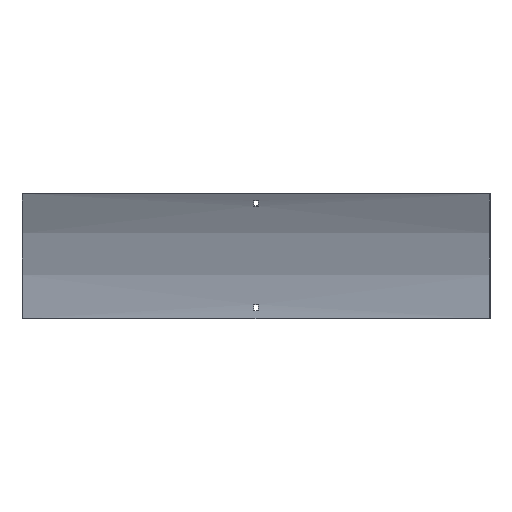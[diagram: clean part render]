
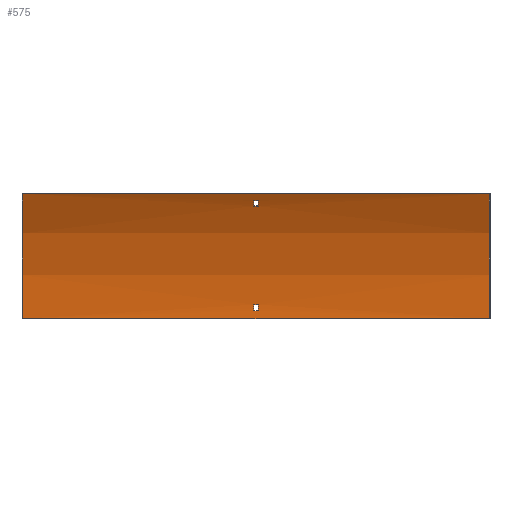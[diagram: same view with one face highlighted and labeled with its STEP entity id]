
A CAD part, front view. The second image highlights one B-rep face of the part: STEP entity #575.
In plain terms, the highlighted cylindrical face has radius 375 mm (diameter 750 mm), a partial arc.
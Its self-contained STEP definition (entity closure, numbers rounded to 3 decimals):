
#3 = CARTESIAN_POINT ( 'NONE',  ( 350., -51.74, 187.5 ) ) ;
#8 = DIRECTION ( 'NONE',  ( -1., 0., 0. ) ) ;
#13 = LINE ( 'NONE', #181, #226 ) ;
#18 = DIRECTION ( 'NONE',  ( -1., 0., 0. ) ) ;
#26 = ORIENTED_EDGE ( 'NONE', *, *, #449, .T. ) ;
#30 = AXIS2_PLACEMENT_3D ( 'NONE', #370, #436, #198 ) ;
#31 = CIRCLE ( 'NONE', #379, 375. ) ;
#35 = ORIENTED_EDGE ( 'NONE', *, *, #467, .T. ) ;
#37 = ORIENTED_EDGE ( 'NONE', *, *, #94, .F. ) ;
#42 = DIRECTION ( 'NONE',  ( -1., 0., 0. ) ) ;
#59 = EDGE_CURVE ( 'NONE', #239, #454, #132, .T. ) ;
#63 = VECTOR ( 'NONE', #478, 1000. ) ;
#78 = LINE ( 'NONE', #455, #471 ) ;
#79 = EDGE_CURVE ( 'NONE', #269, #177, #469, .T. ) ;
#81 = CARTESIAN_POINT ( 'NONE',  ( 3.25, -1.692, 12. ) ) ;
#94 = EDGE_CURVE ( 'NONE', #230, #545, #13, .T. ) ;
#98 = DIRECTION ( 'NONE',  ( -1., 0., 0. ) ) ;
#99 = AXIS2_PLACEMENT_3D ( 'NONE', #569, #402, #543 ) ;
#105 = LINE ( 'NONE', #289, #63 ) ;
#112 = ORIENTED_EDGE ( 'NONE', *, *, #507, .F. ) ;
#125 = AXIS2_PLACEMENT_3D ( 'NONE', #398, #222, #498 ) ;
#132 = CIRCLE ( 'NONE', #30, 375. ) ;
#133 = CIRCLE ( 'NONE', #451, 375. ) ;
#142 = CARTESIAN_POINT ( 'NONE',  ( 3.25, -376.5, 0. ) ) ;
#147 = VECTOR ( 'NONE', #42, 1000. ) ;
#159 = ORIENTED_EDGE ( 'NONE', *, *, #339, .T. ) ;
#166 = VERTEX_POINT ( 'NONE', #219 ) ;
#173 = AXIS2_PLACEMENT_3D ( 'NONE', #282, #573, #582 ) ;
#177 = VERTEX_POINT ( 'NONE', #263 ) ;
#179 = CARTESIAN_POINT ( 'NONE',  ( -350., -1.5, 0. ) ) ;
#181 = CARTESIAN_POINT ( 'NONE',  ( 350., -1.5, 0. ) ) ;
#182 = CARTESIAN_POINT ( 'NONE',  ( 3.25, -41.75, 169.019 ) ) ;
#187 = EDGE_CURVE ( 'NONE', #230, #584, #501, .T. ) ;
#198 = DIRECTION ( 'NONE',  ( 0., 0., -1. ) ) ;
#205 = EDGE_LOOP ( 'NONE', ( #35, #295, #26, #159 ) ) ;
#209 = CARTESIAN_POINT ( 'NONE',  ( -3.25, -1.692, 12. ) ) ;
#210 = VERTEX_POINT ( 'NONE', #209 ) ;
#216 = DIRECTION ( 'NONE',  ( 0., 0., -1. ) ) ;
#218 = ORIENTED_EDGE ( 'NONE', *, *, #538, .F. ) ;
#219 = CARTESIAN_POINT ( 'NONE',  ( 3.25, -45.907, 177.012 ) ) ;
#222 = DIRECTION ( 'NONE',  ( 1., 0., 0. ) ) ;
#226 = VECTOR ( 'NONE', #8, 1000. ) ;
#227 = DIRECTION ( 'NONE',  ( 1., 0., 0. ) ) ;
#230 = VERTEX_POINT ( 'NONE', #551 ) ;
#239 = VERTEX_POINT ( 'NONE', #306 ) ;
#244 = CARTESIAN_POINT ( 'NONE',  ( -350., -51.74, 187.5 ) ) ;
#263 = CARTESIAN_POINT ( 'NONE',  ( -3.25, -2.088, 21. ) ) ;
#269 = VERTEX_POINT ( 'NONE', #364 ) ;
#279 = DIRECTION ( 'NONE',  ( -1., 0., 0. ) ) ;
#282 = CARTESIAN_POINT ( 'NONE',  ( 350., -376.5, 0. ) ) ;
#286 = FACE_BOUND ( 'NONE', #437, .T. ) ;
#287 = DIRECTION ( 'NONE',  ( 0., 0., 1. ) ) ;
#288 = CARTESIAN_POINT ( 'NONE',  ( 351.5, -376.5, 0. ) ) ;
#289 = CARTESIAN_POINT ( 'NONE',  ( 351.5, -45.907, 177.012 ) ) ;
#295 = ORIENTED_EDGE ( 'NONE', *, *, #59, .T. ) ;
#300 = VECTOR ( 'NONE', #18, 1000. ) ;
#306 = CARTESIAN_POINT ( 'NONE',  ( -3.25, -41.75, 169.019 ) ) ;
#330 = CARTESIAN_POINT ( 'NONE',  ( 351.5, -2.088, 21. ) ) ;
#331 = FACE_OUTER_BOUND ( 'NONE', #605, .T. ) ;
#335 = LINE ( 'NONE', #435, #300 ) ;
#339 = EDGE_CURVE ( 'NONE', #166, #588, #133, .T. ) ;
#352 = CIRCLE ( 'NONE', #125, 375. ) ;
#353 = ORIENTED_EDGE ( 'NONE', *, *, #187, .T. ) ;
#364 = CARTESIAN_POINT ( 'NONE',  ( 3.25, -2.088, 21. ) ) ;
#370 = CARTESIAN_POINT ( 'NONE',  ( -3.25, -376.5, 0. ) ) ;
#379 = AXIS2_PLACEMENT_3D ( 'NONE', #460, #412, #216 ) ;
#381 = DIRECTION ( 'NONE',  ( -1., 0., 0. ) ) ;
#398 = CARTESIAN_POINT ( 'NONE',  ( 3.25, -376.5, 0. ) ) ;
#402 = DIRECTION ( 'NONE',  ( -1., 0., 0. ) ) ;
#412 = DIRECTION ( 'NONE',  ( 1., 0., 0. ) ) ;
#415 = CYLINDRICAL_SURFACE ( 'NONE', #503, 375. ) ;
#419 = CARTESIAN_POINT ( 'NONE',  ( 350., -51.74, 187.5 ) ) ;
#435 = CARTESIAN_POINT ( 'NONE',  ( 351.5, -41.75, 169.019 ) ) ;
#436 = DIRECTION ( 'NONE',  ( 1., 0., 0. ) ) ;
#437 = EDGE_LOOP ( 'NONE', ( #572, #530, #539, #112 ) ) ;
#448 = ORIENTED_EDGE ( 'NONE', *, *, #576, .T. ) ;
#449 = EDGE_CURVE ( 'NONE', #454, #166, #105, .T. ) ;
#451 = AXIS2_PLACEMENT_3D ( 'NONE', #142, #98, #287 ) ;
#454 = VERTEX_POINT ( 'NONE', #520 ) ;
#455 = CARTESIAN_POINT ( 'NONE',  ( 351.5, -1.692, 12. ) ) ;
#460 = CARTESIAN_POINT ( 'NONE',  ( -350., -376.5, 0. ) ) ;
#467 = EDGE_CURVE ( 'NONE', #588, #239, #335, .T. ) ;
#469 = LINE ( 'NONE', #330, #480 ) ;
#471 = VECTOR ( 'NONE', #227, 1000. ) ;
#476 = EDGE_CURVE ( 'NONE', #177, #210, #601, .T. ) ;
#478 = DIRECTION ( 'NONE',  ( 1., 0., 0. ) ) ;
#480 = VECTOR ( 'NONE', #381, 1000. ) ;
#490 = EDGE_CURVE ( 'NONE', #534, #269, #352, .T. ) ;
#498 = DIRECTION ( 'NONE',  ( 0., 0., -1. ) ) ;
#501 = CIRCLE ( 'NONE', #173, 375. ) ;
#503 = AXIS2_PLACEMENT_3D ( 'NONE', #288, #279, #512 ) ;
#507 = EDGE_CURVE ( 'NONE', #210, #534, #78, .T. ) ;
#508 = LINE ( 'NONE', #419, #147 ) ;
#512 = DIRECTION ( 'NONE',  ( 0., 0., 1. ) ) ;
#519 = FACE_BOUND ( 'NONE', #205, .T. ) ;
#520 = CARTESIAN_POINT ( 'NONE',  ( -3.25, -45.907, 177.012 ) ) ;
#530 = ORIENTED_EDGE ( 'NONE', *, *, #79, .F. ) ;
#534 = VERTEX_POINT ( 'NONE', #81 ) ;
#538 = EDGE_CURVE ( 'NONE', #545, #587, #31, .T. ) ;
#539 = ORIENTED_EDGE ( 'NONE', *, *, #490, .F. ) ;
#543 = DIRECTION ( 'NONE',  ( 0., 0., 1. ) ) ;
#545 = VERTEX_POINT ( 'NONE', #179 ) ;
#551 = CARTESIAN_POINT ( 'NONE',  ( 350., -1.5, 0. ) ) ;
#569 = CARTESIAN_POINT ( 'NONE',  ( -3.25, -376.5, 0. ) ) ;
#572 = ORIENTED_EDGE ( 'NONE', *, *, #476, .F. ) ;
#573 = DIRECTION ( 'NONE',  ( 1., 0., 0. ) ) ;
#575 = ADVANCED_FACE ( 'NONE', ( #286, #331, #519 ), #415, .F. ) ;
#576 = EDGE_CURVE ( 'NONE', #584, #587, #508, .T. ) ;
#582 = DIRECTION ( 'NONE',  ( 0., 0., -1. ) ) ;
#584 = VERTEX_POINT ( 'NONE', #3 ) ;
#587 = VERTEX_POINT ( 'NONE', #244 ) ;
#588 = VERTEX_POINT ( 'NONE', #182 ) ;
#601 = CIRCLE ( 'NONE', #99, 375. ) ;
#605 = EDGE_LOOP ( 'NONE', ( #218, #37, #353, #448 ) ) ;
